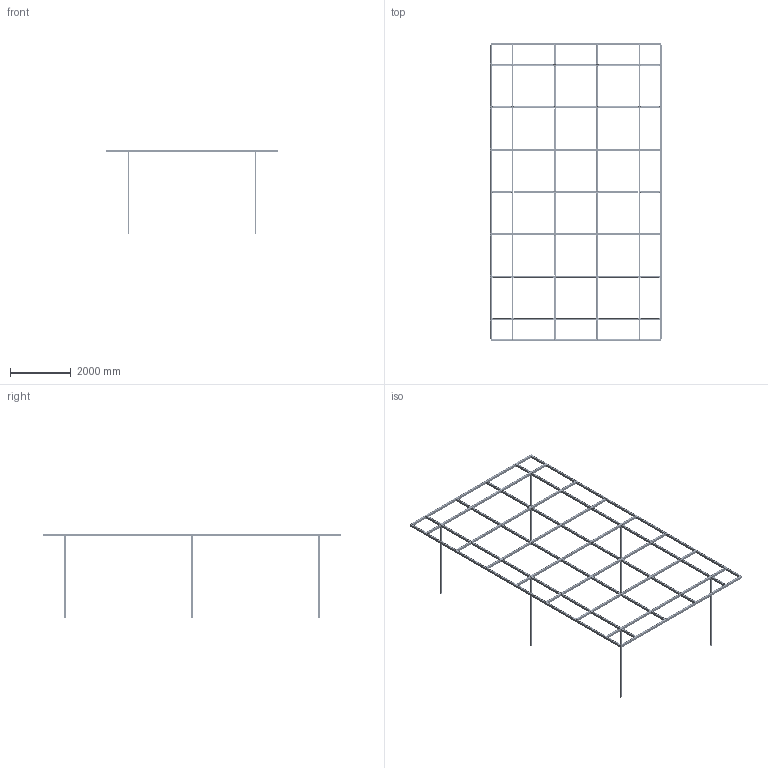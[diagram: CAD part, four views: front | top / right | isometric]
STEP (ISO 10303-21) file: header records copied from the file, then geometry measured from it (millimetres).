
FILE_DESCRIPTION (( 'STEP AP214' ), '1' );
FILE_NAME ('1001970.STEP', '2025-09-12T10:15:36', ( '' ), ( '' ), 'SwSTEP 2.0', 'SolidWorks 2025', '' );
FILE_SCHEMA (( 'AUTOMOTIVE_DESIGN' ));
Length unit declared in the file: millimetre
Products named in the file (1): 1001970
Bounding box: 5660 x 9860 x 2802 mm (x, y, z)
Volume: 272294660.5 mm3; surface area: 75458277.2 mm2
Topology: 379 solids, 379 shells, 25540 faces, 72586 edges, 47996 vertices
Faces by surface type: plane 16245, cylinder 8479, bspline 732, cone 60, torus 24
Entity records: 873277 total; most frequent: CARTESIAN_POINT 200909, ORIENTED_EDGE 145172, DIRECTION 133966, EDGE_CURVE 72586, LINE 53780, VECTOR 53780, VERTEX_POINT 47996, AXIS2_PLACEMENT_3D 40093
